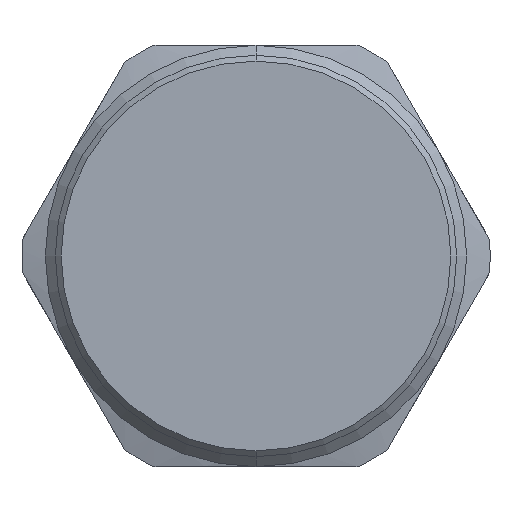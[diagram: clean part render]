
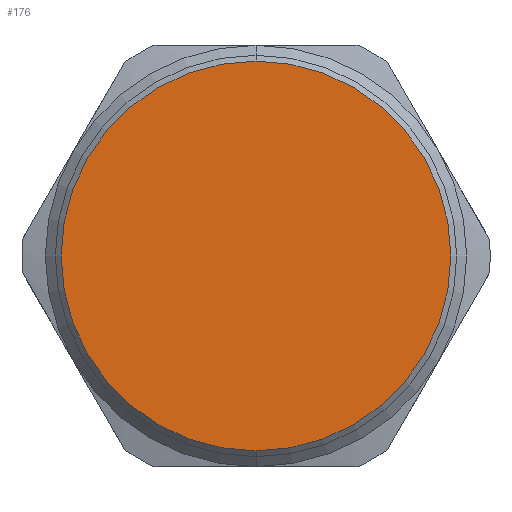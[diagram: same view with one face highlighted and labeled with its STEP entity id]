
A CAD part, front view. The second image highlights one B-rep face of the part: STEP entity #176.
In plain terms, the highlighted planar face has unit normal (0, -1, 0).
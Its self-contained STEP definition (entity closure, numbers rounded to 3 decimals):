
#151=CARTESIAN_POINT('',(0.0,-42.0,16.65));
#152=VERTEX_POINT('',#151);
#153=CARTESIAN_POINT('',(0.0,-42.0,-16.65));
#154=VERTEX_POINT('',#153);
#155=CARTESIAN_POINT('',(0.0,-42.0,0.0));
#156=DIRECTION('',(0.0,-1.0,0.0));
#157=DIRECTION('',(0.0,0.0,1.0));
#158=AXIS2_PLACEMENT_3D('',#155,#156,#157);
#159=CIRCLE('',#158,16.65);
#160=EDGE_CURVE('no 707',#152,#154,#159,.T.);
#161=ORIENTED_EDGE('',*,*,#160,.T.);
#162=CARTESIAN_POINT('',(0.0,-42.0,0.0));
#163=DIRECTION('',(0.0,-1.0,0.0));
#164=DIRECTION('',(0.0,0.0,1.0));
#165=AXIS2_PLACEMENT_3D('',#162,#163,#164);
#166=CIRCLE('',#165,16.65);
#167=EDGE_CURVE('no 711',#154,#152,#166,.T.);
#168=ORIENTED_EDGE('',*,*,#167,.T.);
#169=EDGE_LOOP('',(#161,#168));
#170=FACE_OUTER_BOUND('',#169,.T.);
#171=CARTESIAN_POINT('',(0.0,-42.0,0.0));
#172=DIRECTION('',(0.0,1.0,0.0));
#173=DIRECTION('',(0.0,0.0,1.0));
#174=AXIS2_PLACEMENT_3D('',#171,#172,#173);
#175=PLANE('',#174);
#176=ADVANCED_FACE('no 698',(#170),#175,.F.);
